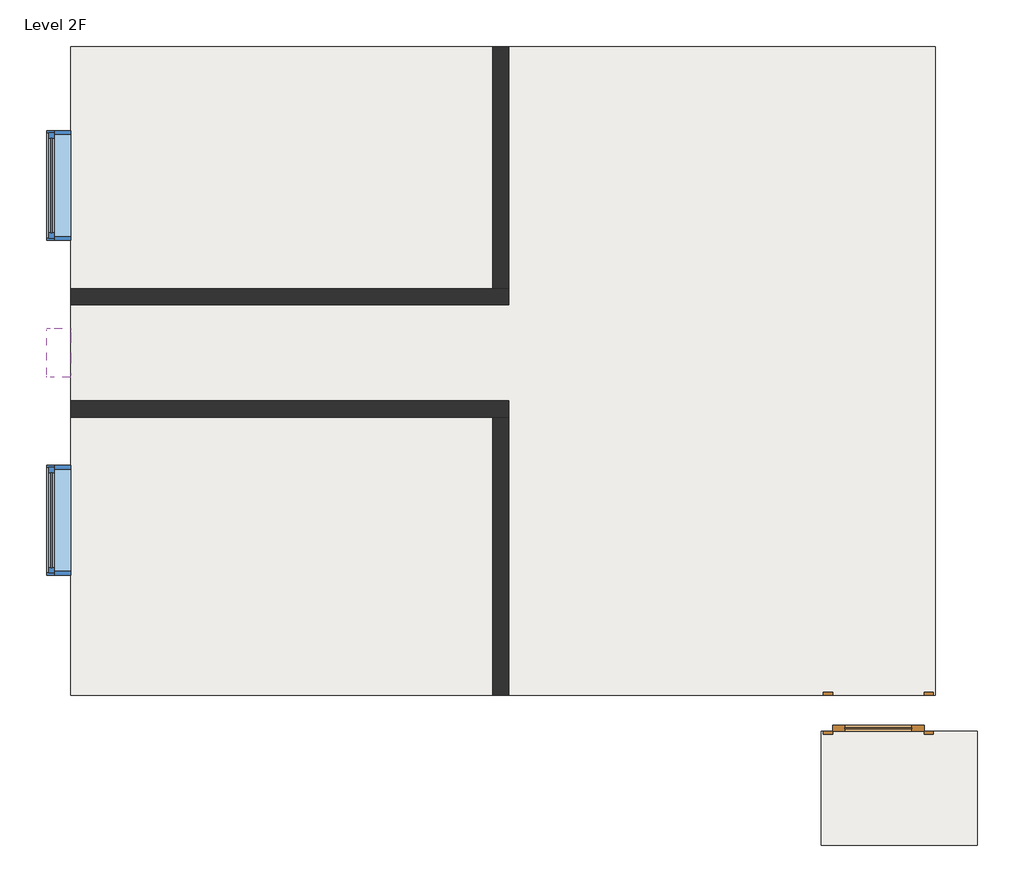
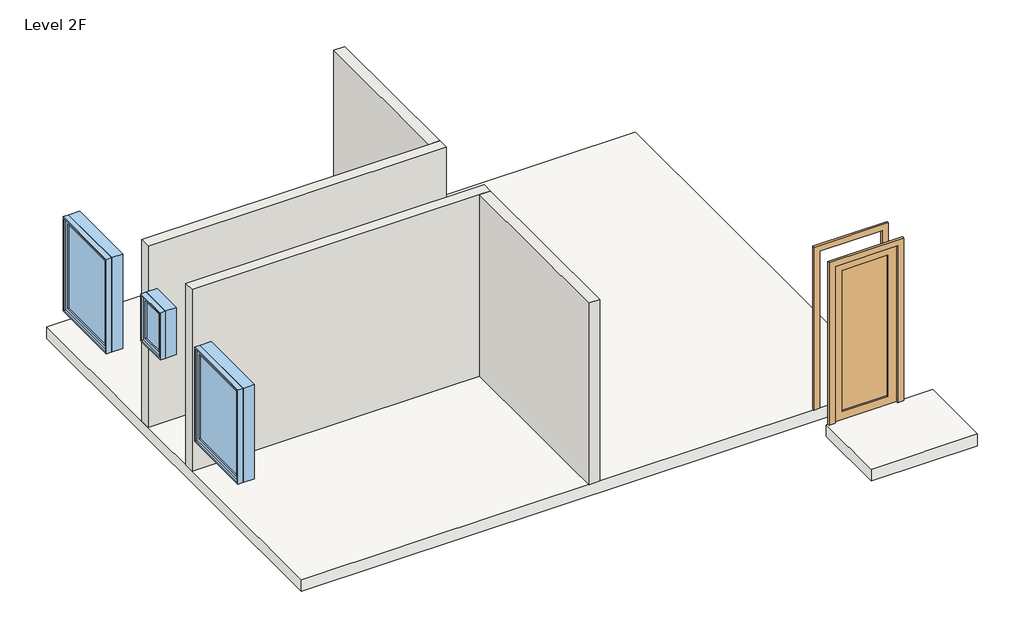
# One storey: 4 walls, 3 windows, 2 slabs, 1 door.
"""IFC4 building model written with IfcOpenShell, lengths in millimetres."""

import ifcopenshell
import ifcopenshell.guid

model = None  # the IFC model being written
_history = None  # IfcOwnerHistory: only IFC2X3 demands one
_inside = {}  # id of a spatial element -> (the spatial element, [elements in it])
_under = {}  # id of a project, library or spatial element -> (it, [spatial elements below it])
_declared = {}  # id of a project -> (the project, [libraries it declares])
_typed = {}  # id of a type object -> (the type object, [elements of that type])
_made_of = {}  # id of a material, layer set ... -> (it, [elements and type objects made of it])


def new_model(schema):
    """Start an empty IFC model of exactly this schema.

    Asked for "IFC4X3", IfcOpenShell would pick the latest addendum, in which some entities
    have other attributes; the version numbers below select the first issue.
    IFC2X3 requires an IfcOwnerHistory on every rooted entity: one is made here for all.
    """
    global model, _history
    if schema == "IFC4X3":
        model = ifcopenshell.file(schema_version=(4, 3, 0, 0))
    else:
        model = ifcopenshell.file(schema=schema)
    _inside.clear()
    _under.clear()
    _declared.clear()
    _typed.clear()
    _made_of.clear()
    _history = None
    if model.schema == "IFC2X3":
        org = make("IfcOrganization", Name="unknown")
        user = make(
            "IfcPersonAndOrganization",
            ThePerson=make("IfcPerson", FamilyName="unknown"),
            TheOrganization=org,
        )
        app = make(
            "IfcApplication",
            ApplicationDeveloper=org,
            Version="unknown",
            ApplicationFullName="unknown",
            ApplicationIdentifier="unknown",
        )
        _history = make(
            "IfcOwnerHistory",
            OwningUser=user,
            OwningApplication=app,
            ChangeAction="ADDED",
            CreationDate=0,
        )
    return model


def make(cls, **values):
    """One entity of the class cls with the attributes given. An attribute that is None is left unset."""
    return model.create_entity(
        cls, **{name: value for name, value in values.items() if value is not None}
    )


def rooted(cls, **values):
    """An entity with a GlobalId (a new one), such as an element, a storey or a relation."""
    return make(cls, GlobalId=ifcopenshell.guid.new(), OwnerHistory=_history, **values)


def si_unit(unit_type, name, prefix=None):
    """IfcSIUnit, for example si_unit("LENGTHUNIT", "METRE", prefix="MILLI")."""
    return make("IfcSIUnit", UnitType=unit_type, Prefix=prefix, Name=name)


def assignment(units):
    """IfcUnitAssignment: the units of a project."""
    return None if units is None else make("IfcUnitAssignment", Units=units)


def point(xyz):
    """IfcCartesianPoint."""
    return None if xyz is None else make("IfcCartesianPoint", Coordinates=xyz)


def direction(xyz):
    """IfcDirection."""
    return None if xyz is None else make("IfcDirection", DirectionRatios=xyz)


def frame(location, z_axis=None, x_axis=None):
    """IfcAxis2Placement3D, a coordinate frame: its origin and axes. An axis left out is left unset."""
    return make(
        "IfcAxis2Placement3D",
        Location=point(location),
        Axis=direction(z_axis),
        RefDirection=direction(x_axis),
    )


def origin():
    """The frame at (0, 0, 0) with its axes left unset."""
    return frame((0.0, 0.0, 0.0))


def place(relative_to, where):
    """IfcLocalPlacement: puts the frame where relative to a parent placement (None: the world)."""
    return make(
        "IfcLocalPlacement", PlacementRelTo=relative_to, RelativePlacement=where
    )


def context(
    kind, dimensions, precision=None, world=None, true_north=None, identifier=None
):
    """IfcGeometricRepresentationContext, for example the 3D "Model" context."""
    return make(
        "IfcGeometricRepresentationContext",
        ContextIdentifier=identifier,
        ContextType=kind,
        CoordinateSpaceDimension=dimensions,
        Precision=precision,
        WorldCoordinateSystem=world,
        TrueNorth=true_north,
    )


def project(units=None, contexts=None):
    """IfcProject with its units and contexts."""
    return rooted(
        "IfcProject",
        Name="project",
        RepresentationContexts=contexts,
        UnitsInContext=assignment(units),
    )


def spatial(cls, under=None, at=None, **own):
    """A site, building, storey or space (cls), placed at a placement, below another one or the project."""
    s = rooted(cls, ObjectPlacement=at, **own)
    if under is not None:
        _under.setdefault(under.id(), (under, []))[1].append(s)
    return s


def polyline(points):
    """IfcPolyline through the points."""
    return make("IfcPolyline", Points=[point(p) for p in points])


def outline(outer, holes=None, kind="AREA"):
    """IfcArbitraryClosedProfileDef: a profile drawn as a closed curve; with holes, ...WithVoids."""
    if holes is None:
        return make("IfcArbitraryClosedProfileDef", ProfileType=kind, OuterCurve=outer)
    return make(
        "IfcArbitraryProfileDefWithVoids",
        ProfileType=kind,
        OuterCurve=outer,
        InnerCurves=holes,
    )


def extrude(swept, where, along, depth):
    """IfcExtrudedAreaSolid: the profile swept, set in the frame where, extruded along a direction by depth."""
    return make(
        "IfcExtrudedAreaSolid",
        SweptArea=swept,
        Position=where,
        ExtrudedDirection=direction(along),
        Depth=depth,
    )


def faces_of(points, faces, orient=None, outer=None):
    """IfcFace entities. A face is a list of loops; a loop is a list of indices into points, from 0.

    orient and outer hold one flag for each loop. By default every Orientation is true, the
    first loop of a face is its IfcFaceOuterBound and the others are IfcFaceBound.
    """
    made = []
    for i, loops in enumerate(faces):
        bounds = []
        for j, loop in enumerate(loops):
            is_outer = j == 0 if outer is None else outer[i][j]
            bounds.append(
                make(
                    "IfcFaceOuterBound" if is_outer else "IfcFaceBound",
                    Bound=make("IfcPolyLoop", Polygon=[points[k] for k in loop]),
                    Orientation=True if orient is None else orient[i][j],
                )
            )
        made.append(make("IfcFace", Bounds=bounds))
    return made


def faceted_brep(points, faces, orient=None, outer=None, voids=None):
    """IfcFacetedBrep: a solid bounded by flat faces; with voids (closed shells), ...WithVoids."""
    shared = [point(p) for p in points]
    hull = make("IfcClosedShell", CfsFaces=faces_of(shared, faces, orient, outer))
    if voids is None:
        return make("IfcFacetedBrep", Outer=hull)
    return make(
        "IfcFacetedBrepWithVoids",
        Outer=hull,
        Voids=[
            make(cls, CfsFaces=faces_of(shared, fs, o, b)) for cls, fs, o, b in voids
        ],
    )


def shape(context_of_items, identifier, shape_type, items):
    """IfcShapeRepresentation: the items that make up one representation, for example the "Body"."""
    return make(
        "IfcShapeRepresentation",
        ContextOfItems=context_of_items,
        RepresentationIdentifier=identifier,
        RepresentationType=shape_type,
        Items=items,
    )


def source(mapping_origin, context_of_items, identifier, shape_type, items):
    """IfcRepresentationMap: a shape defined once, which mapped items show again and again."""
    return make(
        "IfcRepresentationMap",
        MappingOrigin=mapping_origin,
        MappedRepresentation=shape(context_of_items, identifier, shape_type, items),
    )


def transform(
    local_origin,
    x_axis=None,
    y_axis=None,
    z_axis=None,
    scale=None,
    scale2=None,
    scale3=None,
    uniform=True,
):
    """IfcCartesianTransformationOperator3D, or its non-uniform kind. x_axis, y_axis, z_axis: its Axis1, 2, 3."""
    if uniform:
        return make(
            "IfcCartesianTransformationOperator3D",
            Axis1=direction(x_axis),
            Axis2=direction(y_axis),
            LocalOrigin=point(local_origin),
            Scale=scale,
            Axis3=direction(z_axis),
        )
    return make(
        "IfcCartesianTransformationOperator3DnonUniform",
        Axis1=direction(x_axis),
        Axis2=direction(y_axis),
        LocalOrigin=point(local_origin),
        Scale=scale,
        Axis3=direction(z_axis),
        Scale2=scale2,
        Scale3=scale3,
    )


def mapped(mapping_source, mapping_target):
    """IfcMappedItem: shows the shape of a source again, moved by a transform."""
    return make(
        "IfcMappedItem", MappingSource=mapping_source, MappingTarget=mapping_target
    )


def made_of(thing, what):
    """Note that an element or type object is made of a material, layer set ...; save() writes the relation."""
    if what is not None:
        _made_of.setdefault(what.id(), (what, []))[1].append(thing)
    return thing


def element(
    cls,
    number,
    at=None,
    inside=None,
    cuts=None,
    type_object=None,
    material=None,
    context=None,
    identifier="Body",
    shape_type=None,
    held_by="IfcProductDefinitionShape",
    body=None,
    shapes=None,
    **own,
):
    """One element of the class cls, such as IfcWall. Its Tag is "e" and its number.

    at: its placement. inside: the storey or other place that contains it. cuts: it is an
    opening in that element (IfcRelVoidsElement). A single representation is given by context,
    identifier, shape_type and body (its items); several are given by shapes. held_by: the class
    of the entity that holds the representations. save() writes the other relations.
    """
    e = rooted(cls, Tag="e%d" % number, ObjectPlacement=at, **own)
    if body is not None:
        shapes = [shape(context, identifier, shape_type, body)]
    if shapes is not None:
        e.Representation = make(held_by, Representations=shapes)
    if inside is not None:
        _inside.setdefault(inside.id(), (inside, []))[1].append(e)
    if cuts is not None:
        rooted(
            "IfcRelVoidsElement", RelatingBuildingElement=cuts, RelatedOpeningElement=e
        )
    if type_object is not None:
        _typed.setdefault(type_object.id(), (type_object, []))[1].append(e)
    return made_of(e, material)


def aggregate(whole, parts):
    """IfcRelAggregates: a whole, such as a stair, and the parts it consists of."""
    return rooted("IfcRelAggregates", RelatingObject=whole, RelatedObjects=parts)


def save(model, path):
    """Write the relations noted so far, then the file.

    IfcRelAggregates (storeys below a building ...), IfcRelContainedInSpatialStructure (elements
    in a storey), IfcRelDefinesByType, IfcRelAssociatesMaterial and IfcRelDeclares: one each for
    every whole, place, type object, material and project.
    """
    for whole, parts in _under.values():
        aggregate(whole, parts)
    for where, things in _inside.values():
        rooted(
            "IfcRelContainedInSpatialStructure",
            RelatedElements=things,
            RelatingStructure=where,
        )
    for kind, things in _typed.values():
        rooted("IfcRelDefinesByType", RelatedObjects=things, RelatingType=kind)
    for what, things in _made_of.values():
        rooted("IfcRelAssociatesMaterial", RelatedObjects=things, RelatingMaterial=what)
    for by, libraries in _declared.values():
        rooted("IfcRelDeclares", RelatingContext=by, RelatedDefinitions=libraries)
    model.write(path)


def m_single_glass_1_0762_x_2032mm_4bb71081(model_context):
    return source(origin(), model_context, "Body", "SweptSolid", [
        extrude(outline(polyline([(2032.0, 381.0), (0.0, 381.0), (0.0, 457.0), (2108.0, 457.0), (2108.0, -457.0), (0.0, -457.0), (0.0, -381.0), (2032.0, -381.0), (2032.0, 381.0)])), frame((0.0, -175.0, 0.0), z_axis=(0.0, 1.0, 0.0), x_axis=(0.0, 0.0, 1.0)), (0.0, 0.0, 1.0), 25.0),
        extrude(outline(polyline([(2032.0, 381.0), (0.0, 381.0), (0.0, 457.0), (2108.0, 457.0), (2108.0, -457.0), (0.0, -457.0), (0.0, -381.0), (2032.0, -381.0), (2032.0, 381.0)])), frame((0.0, 150.0, 0.0), z_axis=(0.0, 1.0, 0.0), x_axis=(0.0, 0.0, 1.0)), (0.0, 0.0, 1.0), 25.0),
        extrude(outline(polyline([(279.0, 121.425), (-279.0, 121.425), (-279.0, 127.775), (279.0, 127.775), (279.0, 121.425)])), frame((0.0, 0.0, 102.0), z_axis=(0.0, 0.0, 1.0), x_axis=(1.0, 0.0, 0.0)), (0.0, 0.0, 1.0), 1828.0),
        extrude(outline(polyline([(2032.0, 381.0), (2032.0, -381.0), (0.0, -381.0), (0.0, 381.0), (2032.0, 381.0)]), holes=[polyline([(1930.0, -279.0), (1930.0, 279.0), (102.0, 279.0), (102.0, -279.0), (1930.0, -279.0)])]), frame((0.0, 99.0, 0.0), z_axis=(0.0, 1.0, 0.0), x_axis=(0.0, 0.0, 1.0)), (0.0, 0.0, 1.0), 51.0),
    ])


def m_fixed_0406_x_0610mm_8205b201(model_context):
    return source(origin(), model_context, "Body", "SweptSolid", [
        extrude(outline(polyline([(-140.0, 78.0), (140.0, 78.0), (140.0, 66.0), (-140.0, 66.0), (-140.0, 78.0)])), frame((0.0, 0.0, 978.0), z_axis=(0.0, 0.0, 1.0), x_axis=(1.0, 0.0, 0.0)), (0.0, 0.0, 1.0), 484.0),
        extrude(outline(polyline([(1506.0, -184.0), (934.0, -184.0), (934.0, 184.0), (1506.0, 184.0), (1506.0, -184.0)]), holes=[polyline([(1462.0, -140.0), (1462.0, 140.0), (978.0, 140.0), (978.0, -140.0), (1462.0, -140.0)])]), frame((0.0, 50.0, 0.0), z_axis=(0.0, 1.0, 0.0), x_axis=(0.0, 0.0, 1.0)), (0.0, 0.0, 1.0), 44.0),
        extrude(outline(polyline([(1525.0, -203.0), (915.0, -203.0), (915.0, 203.0), (1525.0, 203.0), (1525.0, -203.0)]), holes=[polyline([(1506.0, -184.0), (1506.0, 184.0), (934.0, 184.0), (934.0, -184.0), (1506.0, -184.0)])]), frame((0.0, 50.0, 0.0), z_axis=(0.0, 1.0, 0.0), x_axis=(0.0, 0.0, 1.0)), (0.0, 0.0, 1.0), 63.0),
        extrude(outline(polyline([(1525.0, -203.0), (915.0, -203.0), (915.0, 203.0), (1525.0, 203.0), (1525.0, -203.0)]), holes=[polyline([(1493.0, -171.0), (1493.0, 171.0), (947.0, 171.0), (947.0, -171.0), (1493.0, -171.0)])]), frame((0.0, -87.0, 0.0), z_axis=(0.0, 1.0, 0.0), x_axis=(0.0, 0.0, 1.0)), (0.0, 0.0, 1.0), 137.0),
    ])


def m_fixed_0915_x_1220mm_488fb2fb(model_context):
    return source(origin(), model_context, "Body", "SweptSolid", [
        extrude(outline(polyline([(-394.5, 78.0), (394.5, 78.0), (394.5, 66.0), (-394.5, 66.0), (-394.5, 78.0)])), frame((0.0, 0.0, 978.0), z_axis=(0.0, 0.0, 1.0), x_axis=(1.0, 0.0, 0.0)), (0.0, 0.0, 1.0), 1094.0),
        extrude(outline(polyline([(2116.0, -438.5), (934.0, -438.5), (934.0, 438.5), (2116.0, 438.5), (2116.0, -438.5)]), holes=[polyline([(2072.0, -394.5), (2072.0, 394.5), (978.0, 394.5), (978.0, -394.5), (2072.0, -394.5)])]), frame((0.0, 50.0, 0.0), z_axis=(0.0, 1.0, 0.0), x_axis=(0.0, 0.0, 1.0)), (0.0, 0.0, 1.0), 44.0),
        extrude(outline(polyline([(2135.0, -457.5), (915.0, -457.5), (915.0, 457.5), (2135.0, 457.5), (2135.0, -457.5)]), holes=[polyline([(2116.0, -438.5), (2116.0, 438.5), (934.0, 438.5), (934.0, -438.5), (2116.0, -438.5)])]), frame((0.0, 50.0, 0.0), z_axis=(0.0, 1.0, 0.0), x_axis=(0.0, 0.0, 1.0)), (0.0, 0.0, 1.0), 63.0),
        extrude(outline(polyline([(2135.0, -457.5), (915.0, -457.5), (915.0, 457.5), (2135.0, 457.5), (2135.0, -457.5)]), holes=[polyline([(2103.0, -425.5), (2103.0, 425.5), (947.0, 425.5), (947.0, -425.5), (2103.0, -425.5)])]), frame((0.0, -87.0, 0.0), z_axis=(0.0, 1.0, 0.0), x_axis=(0.0, 0.0, 1.0)), (0.0, 0.0, 1.0), 137.0),
    ])


model = new_model("IFC4")

# Units and contexts
model_context = context("Model", 3, world=origin())
ifc_project = project(units=[si_unit("LENGTHUNIT", "METRE", prefix="MILLI")], contexts=[model_context])

# Site, building, storey
site = spatial("IfcSite", under=ifc_project)
building = spatial("IfcBuilding", under=site)
storey = spatial("IfcBuildingStorey", under=building, Name="Level 2F", Elevation=2600.0)

# Door
placement = place(None, origin())
m_single_glass_1_0762_x_2032mm_shape = m_single_glass_1_0762_x_2032mm_4bb71081(model_context)
element("IfcDoor", 1, ObjectType="M_Single-Glass 1 : 0762 x 2032mm", at=placement, inside=storey, context=model_context, shape_type="MappedRepresentation", body=[
    mapped(m_single_glass_1_0762_x_2032mm_shape, transform((-748.7239276, -12846.8966791, 2600.0), x_axis=(-1.0, 0.0, 0.0), y_axis=(0.0, -1.0, 0.0), z_axis=(0.0, 0.0, 1.0))),
])

# Slabs
element("IfcSlab", 2, ObjectType="Generic 150mm", at=placement, inside=storey, context=model_context, shape_type="Brep", body=[
    faceted_brep([(-273.7239276, -7296.8966791, 2450.0), (-273.7239276, -12696.8966791, 2450.0), (-7473.7239276, -12696.8966791, 2450.0), (-7473.7239276, -7296.8966791, 2450.0), (-273.7239276, -7296.8966791, 2600.0), (-7473.7239276, -7296.8966791, 2600.0), (-7473.7239276, -12696.8966791, 2600.0), (-1129.7239276, -12696.8966791, 2600.0), (-367.7239276, -12696.8966791, 2600.0), (-273.7239276, -12696.8966791, 2600.0)], [[[0, 1, 2, 3]], [[4, 5, 6, 7, 8, 9]], [[1, 0, 4, 9]], [[2, 1, 9, 8, 7, 6]], [[3, 2, 6, 5]], [[0, 3, 5, 4]]]),
])
element("IfcSlab", 3, ObjectType="Generic 150mm", at=placement, inside=storey, context=model_context, shape_type="SweptSolid", body=[
    extrude(outline(polyline([(-1223.7239276, -13946.8966791), (-1223.7239276, -12996.8966791), (76.2760724, -12996.8966791), (76.2760724, -13946.8966791), (-1223.7239276, -13946.8966791)])), frame((0.0, 0.0, 2450.0), z_axis=(0.0, 0.0, 1.0), x_axis=(1.0, 0.0, 0.0)), (0.0, 0.0, 1.0), 150.0),
])

# Walls
element("IfcWall", 4, ObjectType="Interior - 135mm Partition (2-hr)", at=placement, inside=storey, context=model_context, shape_type="Brep", body=[
    faceted_brep([(-7473.7239276, -10382.3966791, 2600.0), (-3959.2239276, -10382.3966791, 2600.0), (-3823.7239276, -10382.3966791, 2600.0), (-3823.7239276, -10382.3966791, 4950.0), (-3959.2239276, -10382.3966791, 4950.0), (-7473.7239276, -10382.3966791, 4950.0), (-7473.7239276, -10246.8966791, 2600.0), (-7473.7239276, -10246.8966791, 4950.0), (-3823.7239276, -10246.8966791, 4950.0), (-3823.7239276, -10246.8966791, 2600.0)], [[[0, 1, 2, 3, 4, 5]], [[6, 7, 8, 9]], [[2, 1, 0, 6, 9]], [[0, 5, 7, 6]], [[3, 2, 9, 8]], [[5, 4, 3, 8, 7]]]),
])
element("IfcWall", 5, ObjectType="Interior - 135mm Partition (2-hr)", at=placement, inside=storey, context=model_context, shape_type="SweptSolid", body=[
    extrude(outline(polyline([(-3959.2239276, -12696.8966791), (-3959.2239276, -10382.3966791), (-3823.7239276, -10382.3966791), (-3823.7239276, -12696.8966791), (-3959.2239276, -12696.8966791)])), frame((0.0, 0.0, 2600.0), z_axis=(0.0, 0.0, 1.0), x_axis=(1.0, 0.0, 0.0)), (0.0, 0.0, 1.0), 2350.0),
])
element("IfcWall", 6, ObjectType="Interior - 135mm Partition (2-hr)", at=placement, inside=storey, context=model_context, shape_type="Brep", body=[
    faceted_brep([(-7473.7239276, -9446.8966791, 2600.0), (-3823.7239276, -9446.8966791, 2600.0), (-3823.7239276, -9446.8966791, 4950.0), (-7473.7239276, -9446.8966791, 4950.0), (-7473.7239276, -9311.3966791, 2600.0), (-7473.7239276, -9311.3966791, 4950.0), (-3959.2239276, -9311.3966791, 4950.0), (-3823.7239276, -9311.3966791, 4950.0), (-3823.7239276, -9311.3966791, 2600.0), (-3959.2239276, -9311.3966791, 2600.0)], [[[0, 1, 2, 3]], [[4, 5, 6, 7, 8, 9]], [[1, 0, 4, 9, 8]], [[0, 3, 5, 4]], [[2, 1, 8, 7]], [[3, 2, 7, 6, 5]]]),
])
element("IfcWall", 7, ObjectType="Interior - 135mm Partition (2-hr)", at=placement, inside=storey, context=model_context, shape_type="SweptSolid", body=[
    extrude(outline(polyline([(-3823.7239276, -7296.8966791), (-3823.7239276, -9311.3966791), (-3959.2239276, -9311.3966791), (-3959.2239276, -7296.8966791), (-3823.7239276, -7296.8966791)])), frame((0.0, 0.0, 2600.0), z_axis=(0.0, 0.0, 1.0), x_axis=(1.0, 0.0, 0.0)), (0.0, 0.0, 1.0), 2350.0),
])

# Windows
m_fixed_0406_x_0610mm_shape = m_fixed_0406_x_0610mm_8205b201(model_context)
element("IfcWindow", 8, ObjectType="M_Fixed : 0406 x 0610mm", at=placement, inside=storey, context=model_context, shape_type="MappedRepresentation", body=[
    mapped(m_fixed_0406_x_0610mm_shape, transform((-7560.7239276, -9846.8966791, 2995.0), x_axis=(0.0, 1.0, 0.0), y_axis=(-1.0, 0.0, 0.0), z_axis=(0.0, 0.0, 1.0))),
])
m_fixed_0915_x_1220mm_shape = m_fixed_0915_x_1220mm_488fb2fb(model_context)
element("IfcWindow", 9, ObjectType="M_Fixed : 0915 x 1220mm", at=placement, inside=storey, context=model_context, shape_type="MappedRepresentation", body=[
    mapped(m_fixed_0915_x_1220mm_shape, transform((-7560.7239276, -8453.8966791, 2385.0), x_axis=(0.0, 1.0, 0.0), y_axis=(-1.0, 0.0, 0.0), z_axis=(0.0, 0.0, 1.0))),
])
element("IfcWindow", 10, ObjectType="M_Fixed : 0915 x 1220mm", at=placement, inside=storey, context=model_context, shape_type="MappedRepresentation", body=[
    mapped(m_fixed_0915_x_1220mm_shape, transform((-7560.7239276, -11239.8966791, 2385.0), x_axis=(0.0, 1.0, 0.0), y_axis=(-1.0, 0.0, 0.0), z_axis=(0.0, 0.0, 1.0))),
])

save(model, "model.ifc")
